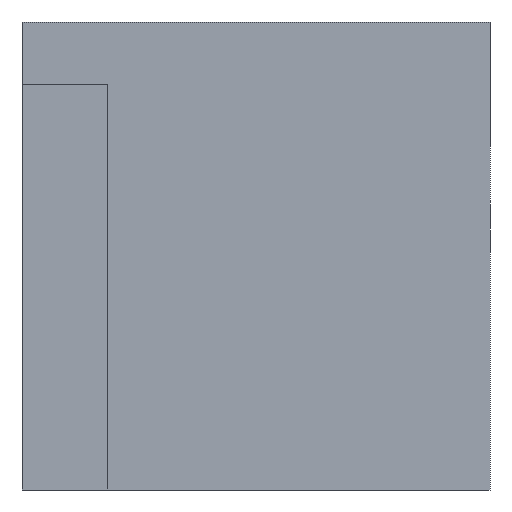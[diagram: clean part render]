
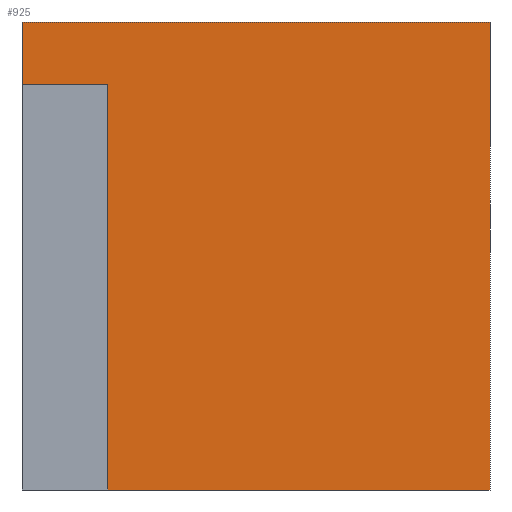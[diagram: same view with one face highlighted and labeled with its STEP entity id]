
A CAD part, front view. The second image highlights one B-rep face of the part: STEP entity #925.
In plain terms, the highlighted planar face has unit normal (0, -1, 0).
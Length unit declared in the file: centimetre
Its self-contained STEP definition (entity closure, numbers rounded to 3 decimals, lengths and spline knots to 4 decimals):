
#46 = VERTEX_POINT ( 'NONE', #423 ) ;
#113 = EDGE_CURVE ( 'NONE', #912, #1296, #1564, .T. ) ;
#117 = CARTESIAN_POINT ( 'NONE',  ( 183.103, 0., 866.7789 ) ) ;
#279 = CARTESIAN_POINT ( 'NONE',  ( 1000., 0., 0. ) ) ;
#282 = CARTESIAN_POINT ( 'NONE',  ( 0., 0., 1000. ) ) ;
#340 = CARTESIAN_POINT ( 'NONE',  ( 0., 0., 1000. ) ) ;
#344 = VERTEX_POINT ( 'NONE', #279 ) ;
#346 = AXIS2_PLACEMENT_3D ( 'NONE', #1218, #1238, #623 ) ;
#351 = LINE ( 'NONE', #1335, #1433 ) ;
#367 = DIRECTION ( 'NONE',  ( 0., 0., -1. ) ) ;
#382 = CARTESIAN_POINT ( 'NONE',  ( 0., 0., 866.7789 ) ) ;
#391 = LINE ( 'NONE', #382, #537 ) ;
#404 = ORIENTED_EDGE ( 'NONE', *, *, #1083, .T. ) ;
#416 = DIRECTION ( 'NONE',  ( 0., 0., -1. ) ) ;
#423 = CARTESIAN_POINT ( 'NONE',  ( 1000., 0., 1000. ) ) ;
#430 = LINE ( 'NONE', #936, #435 ) ;
#435 = VECTOR ( 'NONE', #1441, 100. ) ;
#448 = VECTOR ( 'NONE', #1478, 100. ) ;
#507 = VECTOR ( 'NONE', #416, 100. ) ;
#537 = VECTOR ( 'NONE', #1518, 100. ) ;
#623 = DIRECTION ( 'NONE',  ( 0., 0., 1. ) ) ;
#639 = CARTESIAN_POINT ( 'NONE',  ( 0., 0., 0. ) ) ;
#658 = ORIENTED_EDGE ( 'NONE', *, *, #990, .F. ) ;
#698 = EDGE_LOOP ( 'NONE', ( #1553, #909, #959, #658, #1448, #404 ) ) ;
#726 = PLANE ( 'NONE',  #346 ) ;
#757 = DIRECTION ( 'NONE',  ( 0., 0., -1. ) ) ;
#777 = EDGE_CURVE ( 'NONE', #912, #1087, #391, .T. ) ;
#803 = CARTESIAN_POINT ( 'NONE',  ( 183.103, 0., 0. ) ) ;
#852 = VECTOR ( 'NONE', #367, 100. ) ;
#868 = EDGE_CURVE ( 'NONE', #1296, #344, #980, .T. ) ;
#870 = CARTESIAN_POINT ( 'NONE',  ( 0., 0., 866.7789 ) ) ;
#909 = ORIENTED_EDGE ( 'NONE', *, *, #113, .T. ) ;
#912 = VERTEX_POINT ( 'NONE', #117 ) ;
#925 = ADVANCED_FACE ( 'NONE', ( #1382 ), #726, .F. ) ;
#936 = CARTESIAN_POINT ( 'NONE',  ( 0., 0., 1000. ) ) ;
#959 = ORIENTED_EDGE ( 'NONE', *, *, #868, .T. ) ;
#980 = LINE ( 'NONE', #639, #448 ) ;
#990 = EDGE_CURVE ( 'NONE', #46, #344, #351, .T. ) ;
#1037 = LINE ( 'NONE', #282, #507 ) ;
#1083 = EDGE_CURVE ( 'NONE', #1181, #1087, #1037, .T. ) ;
#1087 = VERTEX_POINT ( 'NONE', #870 ) ;
#1176 = EDGE_CURVE ( 'NONE', #1181, #46, #430, .T. ) ;
#1181 = VERTEX_POINT ( 'NONE', #340 ) ;
#1218 = CARTESIAN_POINT ( 'NONE',  ( 0., 0., 1000. ) ) ;
#1238 = DIRECTION ( 'NONE',  ( 0., 1., 0. ) ) ;
#1296 = VERTEX_POINT ( 'NONE', #803 ) ;
#1335 = CARTESIAN_POINT ( 'NONE',  ( 1000., 0., 1000. ) ) ;
#1382 = FACE_OUTER_BOUND ( 'NONE', #698, .T. ) ;
#1433 = VECTOR ( 'NONE', #757, 100. ) ;
#1441 = DIRECTION ( 'NONE',  ( 1., 0., 0. ) ) ;
#1448 = ORIENTED_EDGE ( 'NONE', *, *, #1176, .F. ) ;
#1470 = CARTESIAN_POINT ( 'NONE',  ( 183.103, 0., 866.7789 ) ) ;
#1478 = DIRECTION ( 'NONE',  ( 1., 0., 0. ) ) ;
#1518 = DIRECTION ( 'NONE',  ( -1., 0., 0. ) ) ;
#1553 = ORIENTED_EDGE ( 'NONE', *, *, #777, .F. ) ;
#1564 = LINE ( 'NONE', #1470, #852 ) ;
